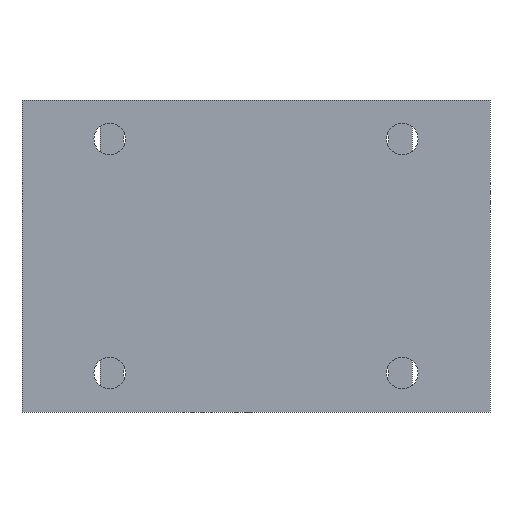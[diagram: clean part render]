
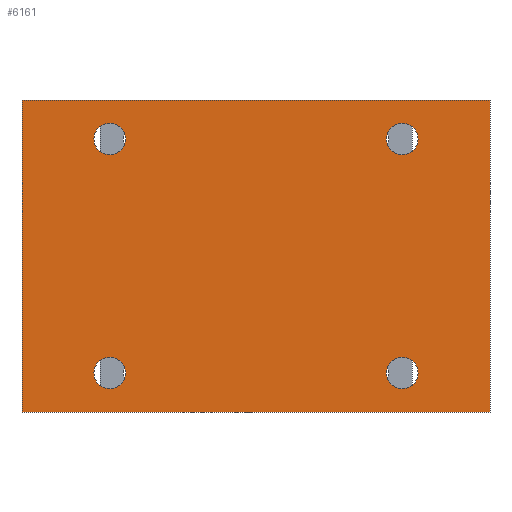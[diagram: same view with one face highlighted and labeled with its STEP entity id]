
A CAD part, front view. The second image highlights one B-rep face of the part: STEP entity #6161.
In plain terms, the highlighted planar face has unit normal (0, -1, 0).
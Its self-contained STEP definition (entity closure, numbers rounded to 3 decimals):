
#394=FACE_BOUND('',#986,.T.);
#395=FACE_BOUND('',#987,.T.);
#396=FACE_BOUND('',#988,.T.);
#397=FACE_BOUND('',#989,.T.);
#461=PLANE('',#6620);
#610=FACE_OUTER_BOUND('',#985,.T.);
#985=EDGE_LOOP('',(#4239,#4240,#4241,#4242));
#986=EDGE_LOOP('',(#4243));
#987=EDGE_LOOP('',(#4244));
#988=EDGE_LOOP('',(#4245));
#989=EDGE_LOOP('',(#4246));
#1415=LINE('',#8824,#1894);
#1419=LINE('',#8832,#1898);
#1422=LINE('',#8838,#1901);
#1425=LINE('',#8843,#1904);
#1894=VECTOR('',#7282,10.);
#1898=VECTOR('',#7288,10.);
#1901=VECTOR('',#7293,10.);
#1904=VECTOR('',#7298,10.);
#2334=CIRCLE('',#6605,10.3);
#2336=CIRCLE('',#6608,10.3);
#2338=CIRCLE('',#6611,10.3);
#2340=CIRCLE('',#6614,10.3);
#2531=VERTEX_POINT('',#8800);
#2533=VERTEX_POINT('',#8806);
#2535=VERTEX_POINT('',#8812);
#2537=VERTEX_POINT('',#8818);
#2538=VERTEX_POINT('',#8822);
#2539=VERTEX_POINT('',#8823);
#2542=VERTEX_POINT('',#8831);
#2544=VERTEX_POINT('',#8837);
#3177=EDGE_CURVE('',#2531,#2531,#2334,.T.);
#3180=EDGE_CURVE('',#2533,#2533,#2336,.T.);
#3183=EDGE_CURVE('',#2535,#2535,#2338,.T.);
#3186=EDGE_CURVE('',#2537,#2537,#2340,.T.);
#3187=EDGE_CURVE('',#2538,#2539,#1415,.T.);
#3191=EDGE_CURVE('',#2539,#2542,#1419,.T.);
#3194=EDGE_CURVE('',#2542,#2544,#1422,.T.);
#3197=EDGE_CURVE('',#2544,#2538,#1425,.T.);
#4239=ORIENTED_EDGE('',*,*,#3197,.T.);
#4240=ORIENTED_EDGE('',*,*,#3187,.T.);
#4241=ORIENTED_EDGE('',*,*,#3191,.T.);
#4242=ORIENTED_EDGE('',*,*,#3194,.T.);
#4243=ORIENTED_EDGE('',*,*,#3186,.F.);
#4244=ORIENTED_EDGE('',*,*,#3183,.F.);
#4245=ORIENTED_EDGE('',*,*,#3180,.F.);
#4246=ORIENTED_EDGE('',*,*,#3177,.F.);
#6161=ADVANCED_FACE('',(#610,#394,#395,#396,#397),#461,.F.);
#6605=AXIS2_PLACEMENT_3D('',#8802,#7257,#7258);
#6608=AXIS2_PLACEMENT_3D('',#8808,#7264,#7265);
#6611=AXIS2_PLACEMENT_3D('',#8814,#7271,#7272);
#6614=AXIS2_PLACEMENT_3D('',#8820,#7278,#7279);
#6620=AXIS2_PLACEMENT_3D('',#8846,#7302,#7303);
#7257=DIRECTION('center_axis',(0.,-1.,0.));
#7258=DIRECTION('ref_axis',(1.,0.,0.));
#7264=DIRECTION('center_axis',(0.,-1.,0.));
#7265=DIRECTION('ref_axis',(1.,0.,0.));
#7271=DIRECTION('center_axis',(0.,-1.,0.));
#7272=DIRECTION('ref_axis',(1.,0.,0.));
#7278=DIRECTION('center_axis',(0.,-1.,0.));
#7279=DIRECTION('ref_axis',(1.,0.,0.));
#7282=DIRECTION('',(0.,0.,1.));
#7288=DIRECTION('',(-1.,0.,0.));
#7293=DIRECTION('',(0.,0.,-1.));
#7298=DIRECTION('',(1.,0.,0.));
#7302=DIRECTION('center_axis',(0.,1.,0.));
#7303=DIRECTION('ref_axis',(1.,0.,0.));
#8800=CARTESIAN_POINT('',(-105.55,0.,-76.2));
#8802=CARTESIAN_POINT('Origin',(-95.25,0.,-76.2));
#8806=CARTESIAN_POINT('',(-105.55,0.,76.2));
#8808=CARTESIAN_POINT('Origin',(-95.25,0.,76.2));
#8812=CARTESIAN_POINT('',(84.95,0.,-76.2));
#8814=CARTESIAN_POINT('Origin',(95.25,0.,-76.2));
#8818=CARTESIAN_POINT('',(84.95,0.,76.2));
#8820=CARTESIAN_POINT('Origin',(95.25,0.,76.2));
#8822=CARTESIAN_POINT('',(152.4,0.,-101.6));
#8823=CARTESIAN_POINT('',(152.4,0.,101.6));
#8824=CARTESIAN_POINT('',(152.4,0.,-101.6));
#8831=CARTESIAN_POINT('',(-152.4,0.,101.6));
#8832=CARTESIAN_POINT('',(152.4,0.,101.6));
#8837=CARTESIAN_POINT('',(-152.4,0.,-101.6));
#8838=CARTESIAN_POINT('',(-152.4,0.,101.6));
#8843=CARTESIAN_POINT('',(-152.4,0.,-101.6));
#8846=CARTESIAN_POINT('Origin',(0.,0.,0.));
